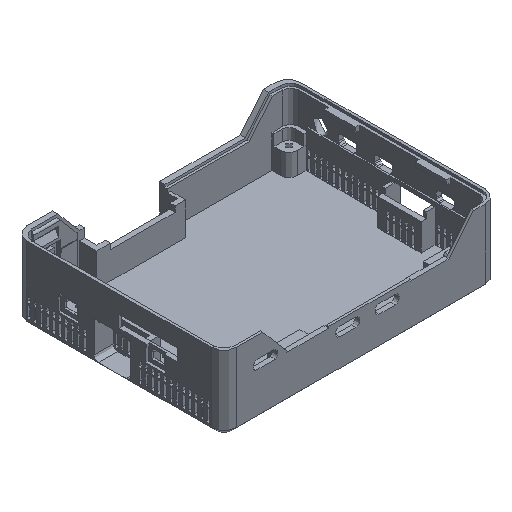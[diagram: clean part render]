
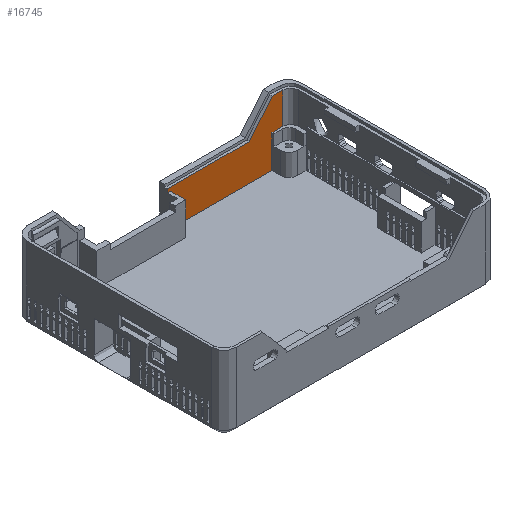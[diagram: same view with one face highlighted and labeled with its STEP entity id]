
A CAD part, isometric view. The second image highlights one B-rep face of the part: STEP entity #16745.
In plain terms, the highlighted planar face has unit normal (0, -1, 0).
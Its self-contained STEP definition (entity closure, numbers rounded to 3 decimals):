
#1271=FACE_OUTER_BOUND('',#2250,.T.);
#2250=EDGE_LOOP('',(#12242,#12243,#12244,#12245,#12246,#12247,#12248,#12249,
#12250,#12251,#12252));
#3213=LINE('',#24140,#5087);
#3727=LINE('',#25972,#5601);
#3732=LINE('',#25982,#5606);
#3733=LINE('',#25984,#5607);
#3734=LINE('',#25986,#5608);
#3735=LINE('',#25988,#5609);
#3736=LINE('',#25990,#5610);
#3737=LINE('',#25992,#5611);
#3738=LINE('',#25994,#5612);
#3739=LINE('',#25995,#5613);
#3740=LINE('',#25996,#5614);
#5087=VECTOR('',#19196,10.);
#5601=VECTOR('',#20530,10.);
#5606=VECTOR('',#20537,10.);
#5607=VECTOR('',#20538,10.);
#5608=VECTOR('',#20539,10.);
#5609=VECTOR('',#20540,10.);
#5610=VECTOR('',#20541,10.);
#5611=VECTOR('',#20542,10.);
#5612=VECTOR('',#20543,10.);
#5613=VECTOR('',#20544,10.);
#5614=VECTOR('',#20545,10.);
#6964=VERTEX_POINT('',#24137);
#6965=VERTEX_POINT('',#24139);
#7750=VERTEX_POINT('',#25970);
#7751=VERTEX_POINT('',#25971);
#7755=VERTEX_POINT('',#25981);
#7756=VERTEX_POINT('',#25983);
#7757=VERTEX_POINT('',#25985);
#7758=VERTEX_POINT('',#25987);
#7759=VERTEX_POINT('',#25989);
#7760=VERTEX_POINT('',#25991);
#7761=VERTEX_POINT('',#25993);
#8643=EDGE_CURVE('',#6965,#6964,#3213,.T.);
#9514=EDGE_CURVE('',#7750,#7751,#3727,.T.);
#9519=EDGE_CURVE('',#7751,#7755,#3732,.T.);
#9520=EDGE_CURVE('',#7756,#7755,#3733,.T.);
#9521=EDGE_CURVE('',#7756,#7757,#3734,.T.);
#9522=EDGE_CURVE('',#7757,#7758,#3735,.T.);
#9523=EDGE_CURVE('',#7758,#7759,#3736,.T.);
#9524=EDGE_CURVE('',#7759,#7760,#3737,.T.);
#9525=EDGE_CURVE('',#7760,#7761,#3738,.T.);
#9526=EDGE_CURVE('',#7761,#6965,#3739,.T.);
#9527=EDGE_CURVE('',#6964,#7750,#3740,.T.);
#12242=ORIENTED_EDGE('',*,*,#9514,.T.);
#12243=ORIENTED_EDGE('',*,*,#9519,.T.);
#12244=ORIENTED_EDGE('',*,*,#9520,.F.);
#12245=ORIENTED_EDGE('',*,*,#9521,.T.);
#12246=ORIENTED_EDGE('',*,*,#9522,.T.);
#12247=ORIENTED_EDGE('',*,*,#9523,.T.);
#12248=ORIENTED_EDGE('',*,*,#9524,.T.);
#12249=ORIENTED_EDGE('',*,*,#9525,.T.);
#12250=ORIENTED_EDGE('',*,*,#9526,.T.);
#12251=ORIENTED_EDGE('',*,*,#8643,.T.);
#12252=ORIENTED_EDGE('',*,*,#9527,.T.);
#16181=PLANE('',#17972);
#16745=ADVANCED_FACE('',(#1271),#16181,.T.);
#17972=AXIS2_PLACEMENT_3D('',#25980,#20535,#20536);
#19196=DIRECTION('',(1.,0.,0.));
#20530=DIRECTION('',(0.,0.,1.));
#20535=DIRECTION('center_axis',(0.,-1.,0.));
#20536=DIRECTION('ref_axis',(-1.,0.,0.));
#20537=DIRECTION('',(1.,0.,0.));
#20538=DIRECTION('',(0.,0.,-1.));
#20539=DIRECTION('',(-1.,0.,0.));
#20540=DIRECTION('',(-0.639,0.,-0.769));
#20541=DIRECTION('',(-1.,0.,0.));
#20542=DIRECTION('',(0.,0.,-1.));
#20543=DIRECTION('',(1.,0.,0.));
#20544=DIRECTION('',(0.,0.,-1.));
#20545=DIRECTION('',(0.,0.,1.));
#24137=CARTESIAN_POINT('',(44.5,37.862,-14.597));
#24139=CARTESIAN_POINT('',(5.067,37.862,-14.597));
#24140=CARTESIAN_POINT('',(26.082,37.862,-14.597));
#25970=CARTESIAN_POINT('',(44.5,37.862,-6.106));
#25971=CARTESIAN_POINT('',(44.5,37.862,-1.8));
#25972=CARTESIAN_POINT('',(44.5,37.862,-1.8));
#25980=CARTESIAN_POINT('Origin',(51.759,37.862,0.));
#25981=CARTESIAN_POINT('',(48.759,37.862,-1.8));
#25982=CARTESIAN_POINT('',(50.879,37.862,-1.8));
#25983=CARTESIAN_POINT('',(48.759,37.862,10.469));
#25984=CARTESIAN_POINT('',(48.759,37.862,-4.606));
#25985=CARTESIAN_POINT('',(44.639,37.862,10.469));
#25986=CARTESIAN_POINT('',(47.964,37.862,10.469));
#25987=CARTESIAN_POINT('',(35.616,37.862,-0.395));
#25988=CARTESIAN_POINT('',(39.158,37.862,3.87));
#25989=CARTESIAN_POINT('',(3.867,37.862,-0.395));
#25990=CARTESIAN_POINT('',(43.688,37.862,-0.395));
#25991=CARTESIAN_POINT('',(3.867,37.862,-1.8));
#25992=CARTESIAN_POINT('',(3.867,37.862,1.173));
#25993=CARTESIAN_POINT('',(5.067,37.862,-1.8));
#25994=CARTESIAN_POINT('',(27.594,37.862,-1.8));
#25995=CARTESIAN_POINT('',(5.067,37.862,-1.6));
#25996=CARTESIAN_POINT('',(44.5,37.862,-6.789));
